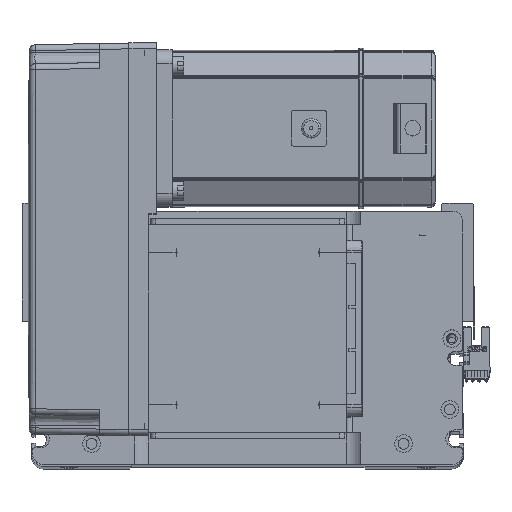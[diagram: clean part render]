
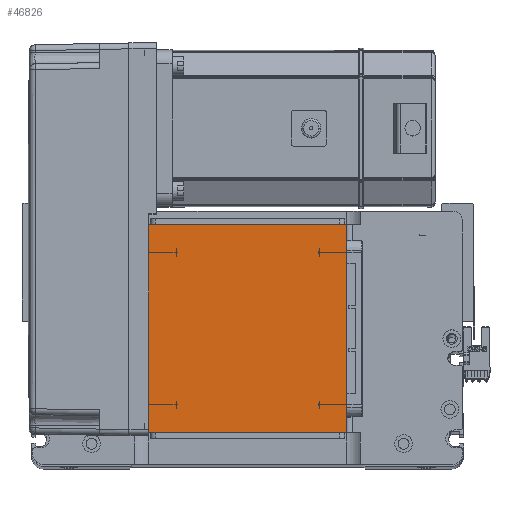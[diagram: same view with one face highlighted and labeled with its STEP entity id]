
A CAD part, top view. The second image highlights one B-rep face of the part: STEP entity #46826.
In plain terms, the highlighted planar face has unit normal (0, 0, 1).
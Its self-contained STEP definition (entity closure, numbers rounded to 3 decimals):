
#395 = VECTOR ( 'NONE', #5788, 1000. ) ;
#2521 = VECTOR ( 'NONE', #38086, 1000. ) ;
#2621 = CARTESIAN_POINT ( 'NONE',  ( 0., 0., 115. ) ) ;
#3466 = FACE_OUTER_BOUND ( 'NONE', #10710, .T. ) ;
#3687 = ORIENTED_EDGE ( 'NONE', *, *, #44344, .T. ) ;
#4437 = EDGE_CURVE ( 'NONE', #9157, #28912, #44455, .T. ) ;
#5788 = DIRECTION ( 'NONE',  ( 0., 1., 0. ) ) ;
#9016 = ORIENTED_EDGE ( 'NONE', *, *, #21157, .T. ) ;
#9157 = VERTEX_POINT ( 'NONE', #37770 ) ;
#9397 = LINE ( 'NONE', #34077, #2521 ) ;
#10710 = EDGE_LOOP ( 'NONE', ( #47350, #42542, #3687, #9016 ) ) ;
#13810 = CARTESIAN_POINT ( 'NONE',  ( 50.5, 122., 115. ) ) ;
#14721 = EDGE_CURVE ( 'NONE', #43721, #9157, #9397, .T. ) ;
#15341 = VERTEX_POINT ( 'NONE', #34467 ) ;
#17971 = LINE ( 'NONE', #34239, #19172 ) ;
#19172 = VECTOR ( 'NONE', #22076, 1000. ) ;
#20288 = AXIS2_PLACEMENT_3D ( 'NONE', #2621, #49903, #26116 ) ;
#21157 = EDGE_CURVE ( 'NONE', #15341, #43721, #17971, .T. ) ;
#21511 = LINE ( 'NONE', #13810, #395 ) ;
#22076 = DIRECTION ( 'NONE',  ( -1., 0., 0. ) ) ;
#25818 = VECTOR ( 'NONE', #37606, 1000. ) ;
#26116 = DIRECTION ( 'NONE',  ( 1., 0., 0. ) ) ;
#28912 = VERTEX_POINT ( 'NONE', #39031 ) ;
#34077 = CARTESIAN_POINT ( 'NONE',  ( -50.5, 122., 115. ) ) ;
#34239 = CARTESIAN_POINT ( 'NONE',  ( -50.5, 122., 115. ) ) ;
#34467 = CARTESIAN_POINT ( 'NONE',  ( 50.5, 122., 115. ) ) ;
#37606 = DIRECTION ( 'NONE',  ( 1., 0., 0. ) ) ;
#37770 = CARTESIAN_POINT ( 'NONE',  ( -50.5, 16., 115. ) ) ;
#38086 = DIRECTION ( 'NONE',  ( 0., -1., 0. ) ) ;
#39031 = CARTESIAN_POINT ( 'NONE',  ( 50.5, 16., 115. ) ) ;
#42081 = CARTESIAN_POINT ( 'NONE',  ( -50.5, 16., 115. ) ) ;
#42542 = ORIENTED_EDGE ( 'NONE', *, *, #4437, .T. ) ;
#43721 = VERTEX_POINT ( 'NONE', #44006 ) ;
#44006 = CARTESIAN_POINT ( 'NONE',  ( -50.5, 122., 115. ) ) ;
#44344 = EDGE_CURVE ( 'NONE', #28912, #15341, #21511, .T. ) ;
#44455 = LINE ( 'NONE', #42081, #25818 ) ;
#46114 = PLANE ( 'NONE',  #20288 ) ;
#46826 = ADVANCED_FACE ( 'NONE', ( #3466 ), #46114, .T. ) ;
#47350 = ORIENTED_EDGE ( 'NONE', *, *, #14721, .T. ) ;
#49903 = DIRECTION ( 'NONE',  ( 0., 0., 1. ) ) ;
